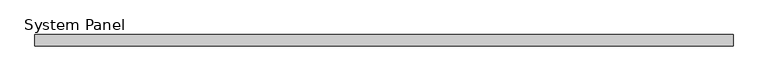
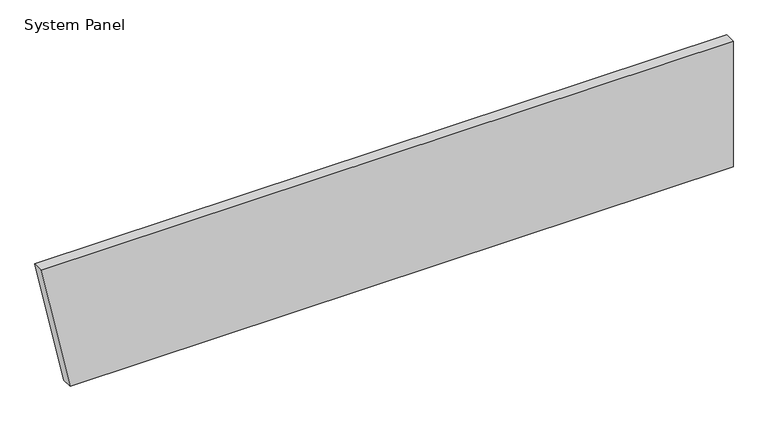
"""IFC4 building model written with IfcOpenShell, lengths in millimetres: plate geometry, System Panel : Equitilt_FlameGuard_100mm_Plain_Surfmist."""

from ifc_helpers import new_model, si_unit, frame, origin, place, context, project, spatial, polyline, outline, extrude, source, transform, mapped, element, save


def system_panel_0fe4f62d(model_context):
    return source(origin(), model_context, "Body", "SweptSolid", [
        extrude(outline(polyline([(0.0, -2864.5641691), (0.0, 3125.4358309), (1200.0, 3125.4358309), (1200.0, -3125.4358309), (0.0, -2864.5641691)])), frame((0.0, -100.0, 0.0), z_axis=(0.0, 1.0, 0.0), x_axis=(0.0, 0.0, 1.0)), (0.0, 0.0, 1.0), 100.0),
    ])


if __name__ == "__main__":
    model = new_model("IFC4")
    model_context = context("Model", 3, world=origin())
    ifc_project = project(units=[si_unit("LENGTHUNIT", "METRE", prefix="MILLI")], contexts=[model_context])
    site = spatial("IfcSite", under=ifc_project)
    building = spatial("IfcBuilding", under=site)
    placement = place(None, origin())
    system_panel_shape = system_panel_0fe4f62d(model_context)
    element("IfcPlate", 1, ObjectType="System Panel : Equitilt_FlameGuard_100mm_Plain_Surfmist", at=placement, inside=building, context=model_context, shape_type="MappedRepresentation", body=[
        mapped(system_panel_shape, transform((0.0, 0.0, 0.0), x_axis=(1.0, 0.0, 0.0), y_axis=(0.0, 1.0, 0.0), z_axis=(0.0, 0.0, 1.0))),
    ])
    save(model, "model.ifc")
